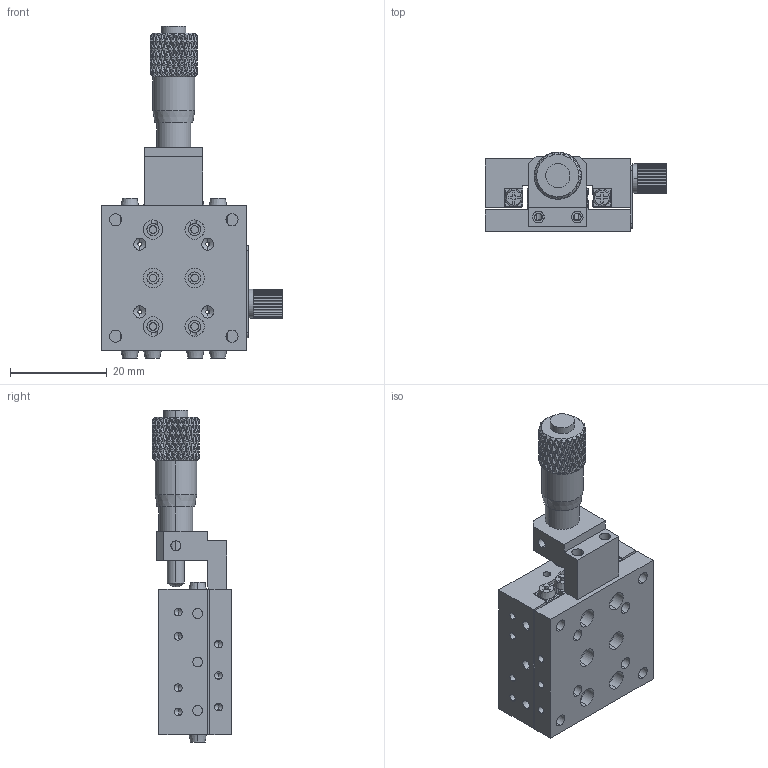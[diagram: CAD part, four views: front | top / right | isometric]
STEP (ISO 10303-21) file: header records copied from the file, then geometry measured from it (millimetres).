
FILE_DESCRIPTION (( 'STEP AP203' ), '1' );
FILE_NAME ('JCX-30C.STEP', '2015-04-15T05:13:14', ( 'MMO' ), ( '' ), 'SwSTEP 2.0', 'SolidWorks 2013', '' );
FILE_SCHEMA (( 'CONFIG_CONTROL_DESIGN' ));
Length unit declared in the file: millimetre
Products named in the file (9): FC-PL-19X13; FC-SJ-2; FC-NB-6; FB-JX-BK-C-01; JCX-30C; FB-JCX30-BD-01; JV1-30-7; FB-JCX30-BD-02; JALB-71-R
Assembly tree (11 placements, depth 2):
  JCX-30C
    FB-JCX30-BD-01
    JV1-30-7  x4
    FB-JCX30-BD-02
    JALB-71-R
    FC-PL-19X13
    FC-SJ-2
    FC-NB-6
    FB-JX-BK-C-01
Bounding box: 37.5 x 16.35 x 68.5 mm (x, y, z)
Volume: 13966.5 mm3; surface area: 12498.4 mm2
Topology: 11 solids, 11 shells, 1575 faces, 3792 edges, 2232 vertices
Faces by surface type: bspline 576, cylinder 532, plane 381, cone 84, sphere 2
Entity records: 44583 total; most frequent: CARTESIAN_POINT 21463, ORIENTED_EDGE 5760, DIRECTION 3311, EDGE_CURVE 2880, VERTEX_POINT 1692, EDGE_LOOP 1346, AXIS2_PLACEMENT_3D 1317, ADVANCED_FACE 1230
